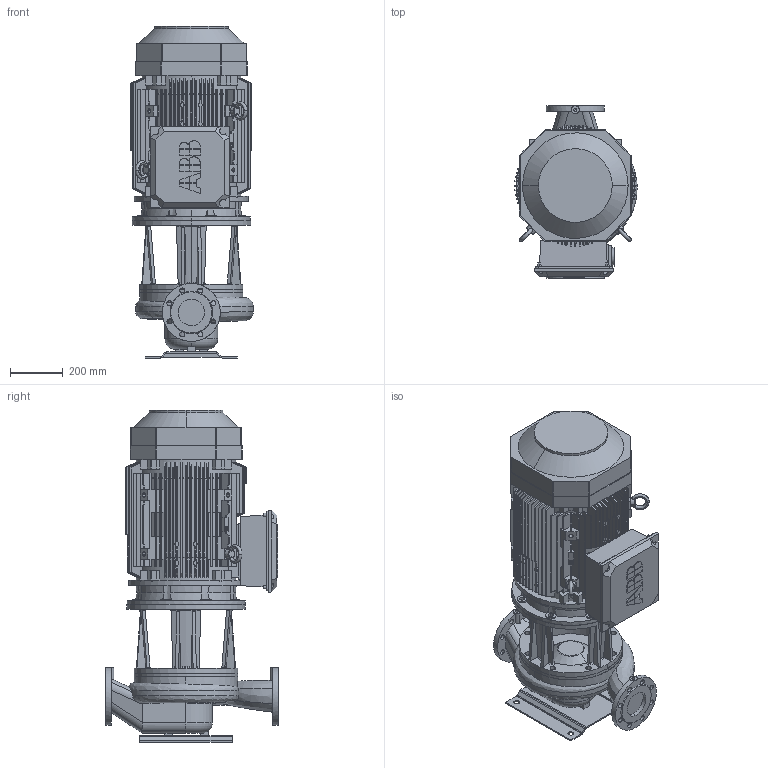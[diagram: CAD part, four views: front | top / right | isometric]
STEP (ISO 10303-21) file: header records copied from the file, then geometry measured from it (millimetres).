
FILE_DESCRIPTION(('STEP AP214'),'1');
FILE_NAME('export.stp','2018-05-30T06:51:58',(' '),(' '),'Spatial InterOp 3D',' ',' ');
FILE_SCHEMA(('AUTOMOTIVE_DESIGN { 1 0 10303 214 1 1 1 1 }'));
Length unit declared in the file: millimetre
Products named in the file (19): W_L100S2SD450; V_TLL100SAL1202; V_PPL100S; P100496; P100495; P100342; P101334; ICE-225; -simplified-simplified_parts_Sta; -simplified-simplified_parts_M32; 3GZV183002-193006-183002-183999_; 3GZV311000-999999-324000-324001_; -simplified-simplified_parts_Fan; -simplified-simplified_parts_Ter; 3GZV244000-310999-294000-299999_; ABBstandard-9ADA_Lifting_Eye_9AD
Assembly tree (20 placements, depth 3):
  W_L100S2SD450
    V_TLL100SAL1202
    V_PPL100S
    P100496
      P100495  x2
      P100342
    P101334
    ICE-225
      -simplified-simplified_parts_Sta
      -simplified-simplified_parts_M32
      3GZV183002-193006-183002-183999_
      3GZV311000-999999-324000-324001_
      -simplified-simplified_parts_Fan
      -simplified-simplified_parts_Ter
      -simplified-simplified_parts_Ter
      3GZV244000-310999-294000-299999_
      3GZV244000-310999-294000-299999_
      3GZV244000-310999-294000-299999_
      ABBstandard-9ADA_Lifting_Eye_9AD  x2
Bounding box: 464.89 x 660 x 1259.9 mm (x, y, z)
Volume: 132665395.1 mm3; surface area: 6600029.7 mm2
Topology: 15 solids, 221 shells, 2106 faces, 6407 edges, 4535 vertices
Faces by surface type: bspline 1738, cylinder 196, plane 104, torus 40, cone 28
Entity records: 119320 total; most frequent: CARTESIAN_POINT 41020, ORIENTED_EDGE 11466, STYLED_ITEM 6582, PRESENTATION_STYLE_ASSIGNMENT 6582, COLOUR_RGB 6582, EDGE_CURVE 6213, VERTEX_POINT 4403, CURVE_STYLE 4330
